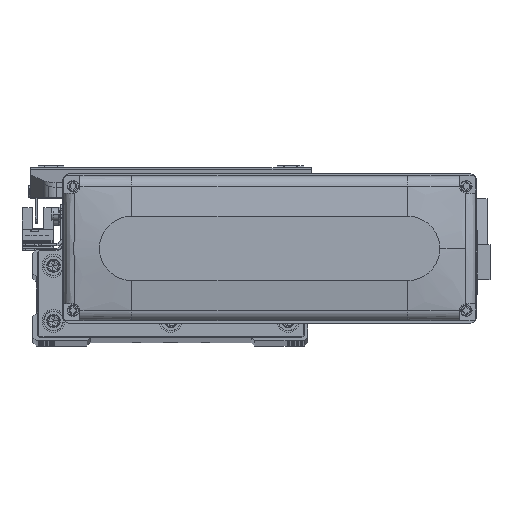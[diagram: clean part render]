
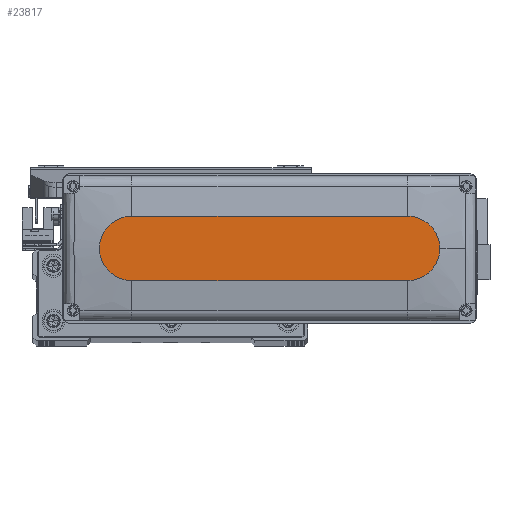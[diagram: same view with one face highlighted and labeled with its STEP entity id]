
A CAD part, top view. The second image highlights one B-rep face of the part: STEP entity #23817.
In plain terms, the highlighted planar face has unit normal (0, 0, 1).
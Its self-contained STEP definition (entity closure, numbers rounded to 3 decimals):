
#58 = DIRECTION ( 'NONE',  ( 1., 0., 0. ) ) ;
#678 = DIRECTION ( 'NONE',  ( 0., 0., 1. ) ) ;
#1251 = CARTESIAN_POINT ( 'NONE',  ( 60., -14., 28.5 ) ) ;
#3812 = DIRECTION ( 'NONE',  ( 0., 0., 1. ) ) ;
#5276 = AXIS2_PLACEMENT_3D ( 'NONE', #22700, #43542, #52394 ) ;
#5780 = DIRECTION ( 'NONE',  ( 0., 0., 1. ) ) ;
#11627 = VERTEX_POINT ( 'NONE', #1251 ) ;
#12540 = CARTESIAN_POINT ( 'NONE',  ( 60., 14., 28.5 ) ) ;
#13378 = DIRECTION ( 'NONE',  ( -1., 0., 0. ) ) ;
#13488 = DIRECTION ( 'NONE',  ( 1., 0., 0. ) ) ;
#18301 = EDGE_CURVE ( 'NONE', #42344, #36210, #50842, .T. ) ;
#19050 = EDGE_CURVE ( 'NONE', #52425, #42344, #47915, .T. ) ;
#19885 = EDGE_CURVE ( 'NONE', #36210, #11627, #34884, .T. ) ;
#22321 = EDGE_LOOP ( 'NONE', ( #31700, #32155, #26609, #34532, #53844 ) ) ;
#22700 = CARTESIAN_POINT ( 'NONE',  ( 60., 0., 28.5 ) ) ;
#22702 = VECTOR ( 'NONE', #13378, 1000. ) ;
#23817 = ADVANCED_FACE ( 'NONE', ( #27458 ), #52584, .T. ) ;
#23911 = AXIS2_PLACEMENT_3D ( 'NONE', #44852, #5780, #13488 ) ;
#26609 = ORIENTED_EDGE ( 'NONE', *, *, #19885, .T. ) ;
#27458 = FACE_OUTER_BOUND ( 'NONE', #22321, .T. ) ;
#30805 = CIRCLE ( 'NONE', #47150, 14. ) ;
#31700 = ORIENTED_EDGE ( 'NONE', *, *, #19050, .T. ) ;
#32155 = ORIENTED_EDGE ( 'NONE', *, *, #18301, .T. ) ;
#34476 = VECTOR ( 'NONE', #58, 1000. ) ;
#34532 = ORIENTED_EDGE ( 'NONE', *, *, #53200, .T. ) ;
#34628 = CARTESIAN_POINT ( 'NONE',  ( -60., -14., 28.5 ) ) ;
#34884 = LINE ( 'NONE', #48552, #34476 ) ;
#35509 = DIRECTION ( 'NONE',  ( 1., 0., 0. ) ) ;
#36210 = VERTEX_POINT ( 'NONE', #34628 ) ;
#39775 = CARTESIAN_POINT ( 'NONE',  ( -60., 0., 28.5 ) ) ;
#39910 = CARTESIAN_POINT ( 'NONE',  ( -60., 14., 28.5 ) ) ;
#41372 = EDGE_CURVE ( 'NONE', #48861, #52425, #30805, .T. ) ;
#42344 = VERTEX_POINT ( 'NONE', #46163 ) ;
#43542 = DIRECTION ( 'NONE',  ( 0., 0., 1. ) ) ;
#43558 = AXIS2_PLACEMENT_3D ( 'NONE', #39775, #678, #35509 ) ;
#44852 = CARTESIAN_POINT ( 'NONE',  ( 0., 0., 28.5 ) ) ;
#46163 = CARTESIAN_POINT ( 'NONE',  ( -60., 14., 28.5 ) ) ;
#47150 = AXIS2_PLACEMENT_3D ( 'NONE', #56285, #3812, #55167 ) ;
#47915 = LINE ( 'NONE', #39910, #22702 ) ;
#48552 = CARTESIAN_POINT ( 'NONE',  ( -60., -14., 28.5 ) ) ;
#48861 = VERTEX_POINT ( 'NONE', #54205 ) ;
#49897 = CIRCLE ( 'NONE', #5276, 14. ) ;
#50842 = CIRCLE ( 'NONE', #43558, 14. ) ;
#52394 = DIRECTION ( 'NONE',  ( 1., 0., 0. ) ) ;
#52425 = VERTEX_POINT ( 'NONE', #12540 ) ;
#52584 = PLANE ( 'NONE',  #23911 ) ;
#53200 = EDGE_CURVE ( 'NONE', #11627, #48861, #49897, .T. ) ;
#53844 = ORIENTED_EDGE ( 'NONE', *, *, #41372, .T. ) ;
#54205 = CARTESIAN_POINT ( 'NONE',  ( 74., 0., 28.5 ) ) ;
#55167 = DIRECTION ( 'NONE',  ( 1., 0., 0. ) ) ;
#56285 = CARTESIAN_POINT ( 'NONE',  ( 60., 0., 28.5 ) ) ;
